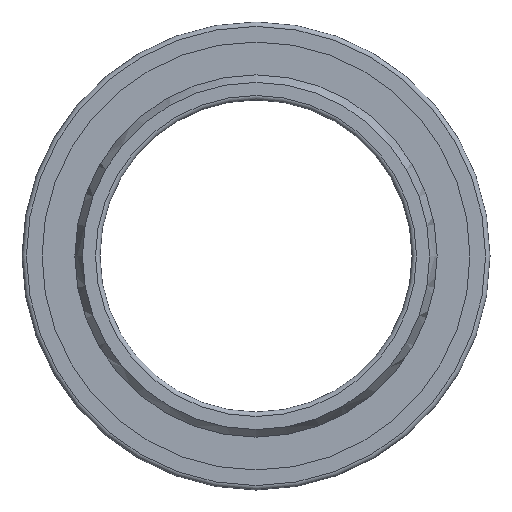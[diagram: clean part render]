
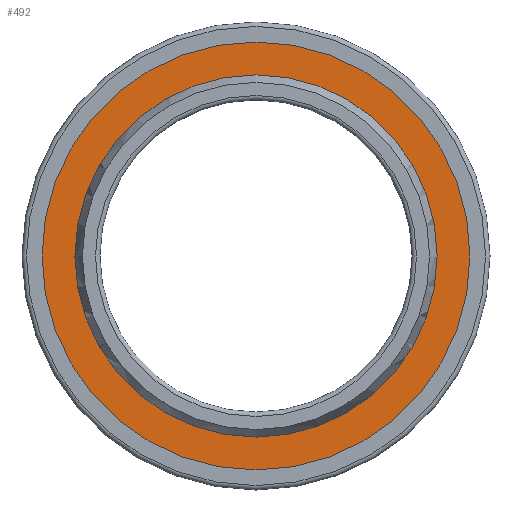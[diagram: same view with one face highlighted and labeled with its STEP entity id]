
A CAD part, left-side view. The second image highlights one B-rep face of the part: STEP entity #492.
In plain terms, the highlighted planar face has unit normal (-1, 0, 0).
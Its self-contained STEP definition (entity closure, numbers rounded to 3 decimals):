
#48=PLANE('',#567);
#105=FACE_BOUND('',#227,.T.);
#153=FACE_OUTER_BOUND('',#226,.T.);
#226=EDGE_LOOP('',(#448));
#227=EDGE_LOOP('',(#449));
#258=CIRCLE('',#561,48.);
#261=CIRCLE('',#566,40.635);
#302=VERTEX_POINT('',#1116);
#305=VERTEX_POINT('',#1124);
#350=EDGE_CURVE('',#302,#302,#258,.T.);
#353=EDGE_CURVE('',#305,#305,#261,.T.);
#448=ORIENTED_EDGE('',*,*,#350,.F.);
#449=ORIENTED_EDGE('',*,*,#353,.T.);
#492=ADVANCED_FACE('',(#153,#105),#48,.T.);
#561=AXIS2_PLACEMENT_3D('',#1117,#703,#704);
#566=AXIS2_PLACEMENT_3D('',#1125,#713,#714);
#567=AXIS2_PLACEMENT_3D('',#1126,#715,#716);
#703=DIRECTION('center_axis',(1.,0.,0.));
#704=DIRECTION('ref_axis',(0.,0.,-1.));
#713=DIRECTION('center_axis',(1.,0.,0.));
#714=DIRECTION('ref_axis',(0.,0.,-1.));
#715=DIRECTION('center_axis',(-1.,0.,0.));
#716=DIRECTION('ref_axis',(0.,0.,1.));
#1116=CARTESIAN_POINT('',(-21.56,48.,0.));
#1117=CARTESIAN_POINT('Origin',(-21.56,0.,0.));
#1124=CARTESIAN_POINT('',(-21.56,40.635,0.));
#1125=CARTESIAN_POINT('Origin',(-21.56,0.,0.));
#1126=CARTESIAN_POINT('Origin',(-21.56,48.,0.));
